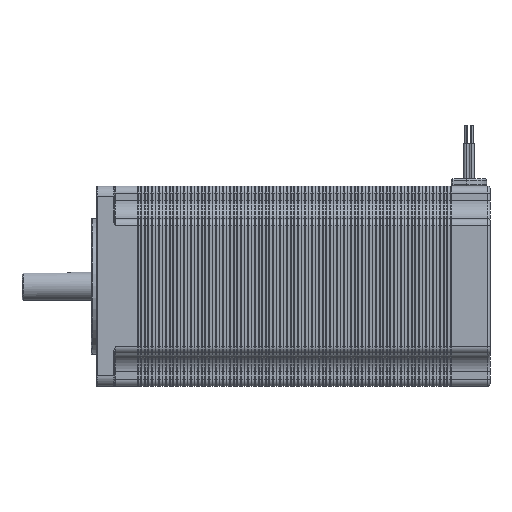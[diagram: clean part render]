
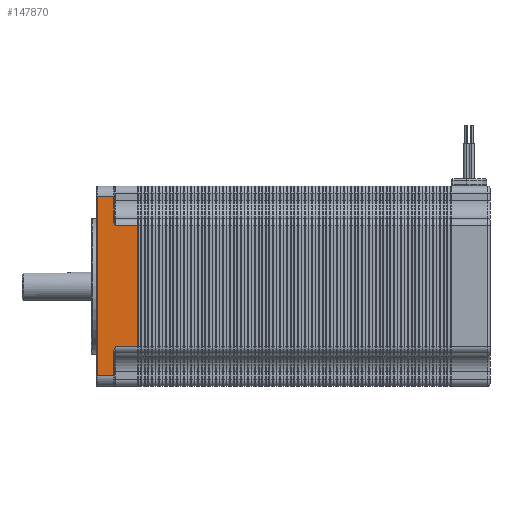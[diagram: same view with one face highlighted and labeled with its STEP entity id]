
A CAD part, left-side view. The second image highlights one B-rep face of the part: STEP entity #147870.
In plain terms, the highlighted planar face has unit normal (-1, 0, 0).
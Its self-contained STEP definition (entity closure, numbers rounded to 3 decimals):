
#3743 = ORIENTED_EDGE ( 'NONE', *, *, #10735, .T. ) ;
#4414 = CARTESIAN_POINT ( 'NONE',  ( -28.15, 105.7, 18.04 ) ) ;
#6519 = EDGE_CURVE ( 'NONE', #268346, #18825, #232897, .T. ) ;
#8781 = CARTESIAN_POINT ( 'NONE',  ( -28.15, 105.7, 18.265 ) ) ;
#9046 = B_SPLINE_CURVE_WITH_KNOTS ( 'NONE', 3,
 ( #204979, #252129, #182790, #160710, #4414, #8781 ),
 .UNSPECIFIED., .F., .F.,
 ( 4, 2, 4 ),
 ( 0., 0.001, 0.001 ),
 .UNSPECIFIED. ) ;
#10735 = EDGE_CURVE ( 'NONE', #87925, #254948, #13255, .T. ) ;
#13255 = LINE ( 'NONE', #39691, #190462 ) ;
#16895 = ORIENTED_EDGE ( 'NONE', *, *, #26708, .T. ) ;
#18825 = VERTEX_POINT ( 'NONE', #240534 ) ;
#23308 = CARTESIAN_POINT ( 'NONE',  ( -28.15, 105.491, -17.403 ) ) ;
#26708 = EDGE_CURVE ( 'NONE', #176097, #87925, #275602, .T. ) ;
#34574 = CARTESIAN_POINT ( 'NONE',  ( -28.15, 110.5, -17. ) ) ;
#37161 = DIRECTION ( 'NONE',  ( 1., 0., 0. ) ) ;
#39691 = CARTESIAN_POINT ( 'NONE',  ( -28.15, 105.5, 25.15 ) ) ;
#44599 = VECTOR ( 'NONE', #214490, 1000. ) ;
#56448 = DIRECTION ( 'NONE',  ( 0., -1., 0. ) ) ;
#58893 = VECTOR ( 'NONE', #286669, 1000. ) ;
#62360 = ORIENTED_EDGE ( 'NONE', *, *, #157941, .T. ) ;
#66890 = CARTESIAN_POINT ( 'NONE',  ( -28.15, 99.1, -17. ) ) ;
#75740 = AXIS2_PLACEMENT_3D ( 'NONE', #190561, #37161, #105037 ) ;
#76245 = EDGE_CURVE ( 'NONE', #156950, #175131, #152568, .T. ) ;
#81699 = LINE ( 'NONE', #84574, #154871 ) ;
#82866 = ORIENTED_EDGE ( 'NONE', *, *, #6519, .T. ) ;
#84574 = CARTESIAN_POINT ( 'NONE',  ( -28.15, 110.3, -25.15 ) ) ;
#87244 = CARTESIAN_POINT ( 'NONE',  ( -28.15, 105.7, 25.15 ) ) ;
#87925 = VERTEX_POINT ( 'NONE', #87244 ) ;
#91641 = ORIENTED_EDGE ( 'NONE', *, *, #275938, .F. ) ;
#94059 = CARTESIAN_POINT ( 'NONE',  ( -28.15, 105.3, -17. ) ) ;
#105037 = DIRECTION ( 'NONE',  ( 0., 0., -1. ) ) ;
#108288 = VERTEX_POINT ( 'NONE', #203797 ) ;
#116201 = CARTESIAN_POINT ( 'NONE',  ( -28.15, 105.7, -18.265 ) ) ;
#120852 = CARTESIAN_POINT ( 'NONE',  ( -28.15, 99.1, -17. ) ) ;
#123051 = CARTESIAN_POINT ( 'NONE',  ( -28.15, 105.7, -25.15 ) ) ;
#136275 = VERTEX_POINT ( 'NONE', #191322 ) ;
#137618 = VERTEX_POINT ( 'NONE', #94059 ) ;
#140383 = ORIENTED_EDGE ( 'NONE', *, *, #251099, .F. ) ;
#142928 = B_SPLINE_CURVE_WITH_KNOTS ( 'NONE', 3,
 ( #116201, #225357, #228231, #23308, #204675, #231131 ),
 .UNSPECIFIED., .F., .F.,
 ( 4, 2, 4 ),
 ( 0., 0.001, 0.001 ),
 .UNSPECIFIED. ) ;
#147870 = ADVANCED_FACE ( 'NONE', ( #154719 ), #214161, .F. ) ;
#151314 = VECTOR ( 'NONE', #56448, 1000. ) ;
#152393 = ORIENTED_EDGE ( 'NONE', *, *, #76245, .T. ) ;
#152522 = VECTOR ( 'NONE', #210718, 1000. ) ;
#152568 = LINE ( 'NONE', #196743, #58893 ) ;
#153835 = ORIENTED_EDGE ( 'NONE', *, *, #218733, .T. ) ;
#154719 = FACE_OUTER_BOUND ( 'NONE', #202106, .T. ) ;
#154871 = VECTOR ( 'NONE', #171668, 1000. ) ;
#156950 = VERTEX_POINT ( 'NONE', #123051 ) ;
#157941 = EDGE_CURVE ( 'NONE', #137618, #268346, #213053, .T. ) ;
#160710 = CARTESIAN_POINT ( 'NONE',  ( -28.15, 105.642, 17.823 ) ) ;
#160714 = DIRECTION ( 'NONE',  ( 0., 0., 1. ) ) ;
#171668 = DIRECTION ( 'NONE',  ( 0., 0., -1. ) ) ;
#175131 = VERTEX_POINT ( 'NONE', #176228 ) ;
#176097 = VERTEX_POINT ( 'NONE', #285750 ) ;
#176228 = CARTESIAN_POINT ( 'NONE',  ( -28.15, 105.7, -18.265 ) ) ;
#182790 = CARTESIAN_POINT ( 'NONE',  ( -28.15, 105.491, 17.403 ) ) ;
#187174 = CARTESIAN_POINT ( 'NONE',  ( -28.15, 105.7, -17. ) ) ;
#190462 = VECTOR ( 'NONE', #216640, 1000. ) ;
#190561 = CARTESIAN_POINT ( 'NONE',  ( -28.15, 110.5, -17. ) ) ;
#191322 = CARTESIAN_POINT ( 'NONE',  ( -28.15, 110.3, -25.15 ) ) ;
#194305 = ORIENTED_EDGE ( 'NONE', *, *, #262421, .T. ) ;
#196743 = CARTESIAN_POINT ( 'NONE',  ( -28.15, 105.7, -17. ) ) ;
#202106 = EDGE_LOOP ( 'NONE', ( #3743, #194305, #140383, #152393, #224478, #62360, #82866, #91641, #153835, #16895 ) ) ;
#203797 = CARTESIAN_POINT ( 'NONE',  ( -28.15, 105.3, 17. ) ) ;
#204675 = CARTESIAN_POINT ( 'NONE',  ( -28.15, 105.395, -17.201 ) ) ;
#204979 = CARTESIAN_POINT ( 'NONE',  ( -28.15, 105.3, 17. ) ) ;
#209533 = CARTESIAN_POINT ( 'NONE',  ( -28.15, 105.5, -25.15 ) ) ;
#210718 = DIRECTION ( 'NONE',  ( 0., 0., 1. ) ) ;
#212911 = CARTESIAN_POINT ( 'NONE',  ( -28.15, 110.5, 17. ) ) ;
#213053 = LINE ( 'NONE', #34574, #44599 ) ;
#214161 = PLANE ( 'NONE',  #75740 ) ;
#214490 = DIRECTION ( 'NONE',  ( 0., -1., 0. ) ) ;
#216640 = DIRECTION ( 'NONE',  ( 0., 1., 0. ) ) ;
#218733 = EDGE_CURVE ( 'NONE', #108288, #176097, #9046, .T. ) ;
#224478 = ORIENTED_EDGE ( 'NONE', *, *, #229693, .T. ) ;
#225357 = CARTESIAN_POINT ( 'NONE',  ( -28.15, 105.7, -18.04 ) ) ;
#228231 = CARTESIAN_POINT ( 'NONE',  ( -28.15, 105.642, -17.823 ) ) ;
#229693 = EDGE_CURVE ( 'NONE', #175131, #137618, #142928, .T. ) ;
#231131 = CARTESIAN_POINT ( 'NONE',  ( -28.15, 105.3, -17. ) ) ;
#232897 = LINE ( 'NONE', #120852, #152522 ) ;
#233745 = VECTOR ( 'NONE', #160714, 1000. ) ;
#234568 = DIRECTION ( 'NONE',  ( 0., 1., 0. ) ) ;
#235021 = LINE ( 'NONE', #212911, #151314 ) ;
#240534 = CARTESIAN_POINT ( 'NONE',  ( -28.15, 99.1, 17. ) ) ;
#251099 = EDGE_CURVE ( 'NONE', #156950, #136275, #256756, .T. ) ;
#252129 = CARTESIAN_POINT ( 'NONE',  ( -28.15, 105.395, 17.202 ) ) ;
#254948 = VERTEX_POINT ( 'NONE', #291642 ) ;
#256756 = LINE ( 'NONE', #209533, #270601 ) ;
#262421 = EDGE_CURVE ( 'NONE', #254948, #136275, #81699, .T. ) ;
#268346 = VERTEX_POINT ( 'NONE', #66890 ) ;
#270601 = VECTOR ( 'NONE', #234568, 1000. ) ;
#275602 = LINE ( 'NONE', #187174, #233745 ) ;
#275938 = EDGE_CURVE ( 'NONE', #108288, #18825, #235021, .T. ) ;
#285750 = CARTESIAN_POINT ( 'NONE',  ( -28.15, 105.7, 18.265 ) ) ;
#286669 = DIRECTION ( 'NONE',  ( 0., 0., 1. ) ) ;
#291642 = CARTESIAN_POINT ( 'NONE',  ( -28.15, 110.3, 25.15 ) ) ;
